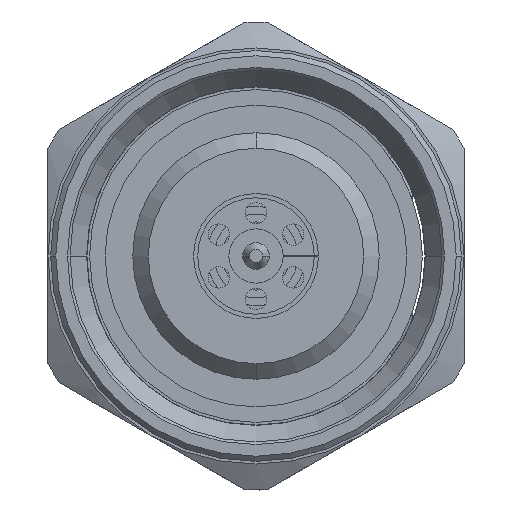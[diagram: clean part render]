
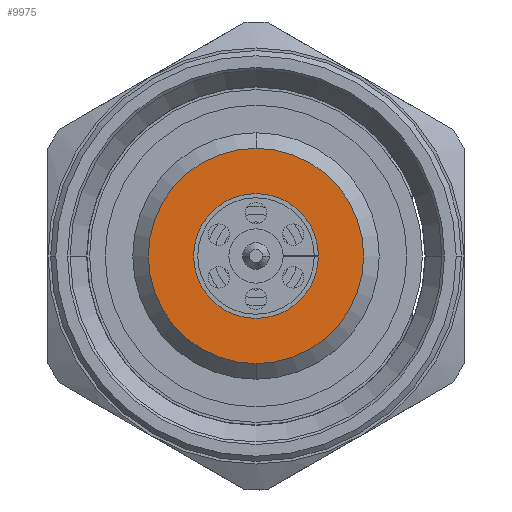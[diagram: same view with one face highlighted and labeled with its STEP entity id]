
A CAD part, left-side view. The second image highlights one B-rep face of the part: STEP entity #9975.
In plain terms, the highlighted planar face has unit normal (-1, 0, 0) as drawn and (0, 0, 1) by its records, which use the part's own axes.
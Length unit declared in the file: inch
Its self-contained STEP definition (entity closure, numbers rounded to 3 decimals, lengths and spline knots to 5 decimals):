
#209 = ORIENTED_EDGE ( 'NONE', *, *, #6118, .F. ) ;
#3384 = DIRECTION ( 'NONE',  ( 0., 0., -1. ) ) ;
#4742 = CARTESIAN_POINT ( 'NONE',  ( 0., -0.04724, 0.51693 ) ) ;
#4942 = AXIS2_PLACEMENT_3D ( 'NONE', #18673, #3384, #21222 ) ;
#4944 = DIRECTION ( 'NONE',  ( 0., 0., -1. ) ) ;
#6118 = EDGE_CURVE ( 'NONE', #16319, #15688, #7831, .T. ) ;
#7831 = CIRCLE ( 'NONE', #28643, 0.0815 ) ;
#8853 = FACE_BOUND ( 'NONE', #21521, .T. ) ;
#9170 = CARTESIAN_POINT ( 'NONE',  ( 0., 0., 0.51693 ) ) ;
#9862 = DIRECTION ( 'NONE',  ( 1., 0., 0. ) ) ;
#9975 = ADVANCED_FACE ( 'NONE', ( #8853, #28452 ), #32786, .T. ) ;
#11285 = VERTEX_POINT ( 'NONE', #24030 ) ;
#11438 = EDGE_CURVE ( 'NONE', #15688, #16319, #27171, .T. ) ;
#11737 = DIRECTION ( 'NONE',  ( 0., 1., 0. ) ) ;
#14535 = DIRECTION ( 'NONE',  ( 0., 0., -1. ) ) ;
#14701 = CIRCLE ( 'NONE', #4942, 0.04724 ) ;
#14778 = EDGE_CURVE ( 'NONE', #11285, #21691, #16567, .T. ) ;
#15688 = VERTEX_POINT ( 'NONE', #26978 ) ;
#16319 = VERTEX_POINT ( 'NONE', #29417 ) ;
#16567 = CIRCLE ( 'NONE', #16901, 0.04724 ) ;
#16901 = AXIS2_PLACEMENT_3D ( 'NONE', #20245, #4944, #22791 ) ;
#17386 = ORIENTED_EDGE ( 'NONE', *, *, #29985, .T. ) ;
#18673 = CARTESIAN_POINT ( 'NONE',  ( 0., 0., 0.51693 ) ) ;
#20101 = ORIENTED_EDGE ( 'NONE', *, *, #11438, .F. ) ;
#20245 = CARTESIAN_POINT ( 'NONE',  ( 0., 0., 0.51693 ) ) ;
#21222 = DIRECTION ( 'NONE',  ( 1., 0., 0. ) ) ;
#21521 = EDGE_LOOP ( 'NONE', ( #29168, #17386 ) ) ;
#21691 = VERTEX_POINT ( 'NONE', #30009 ) ;
#22791 = DIRECTION ( 'NONE',  ( 1., 0., 0. ) ) ;
#24030 = CARTESIAN_POINT ( 'NONE',  ( 0.04724, 0., 0.51693 ) ) ;
#25164 = DIRECTION ( 'NONE',  ( 0., 0., 1. ) ) ;
#26978 = CARTESIAN_POINT ( 'NONE',  ( 0., -0.0815, 0.51693 ) ) ;
#27052 = DIRECTION ( 'NONE',  ( 0., 0., -1. ) ) ;
#27171 = CIRCLE ( 'NONE', #31983, 0.0815 ) ;
#27554 = EDGE_LOOP ( 'NONE', ( #209, #20101 ) ) ;
#28452 = FACE_OUTER_BOUND ( 'NONE', #27554, .T. ) ;
#28643 = AXIS2_PLACEMENT_3D ( 'NONE', #9170, #27052, #11737 ) ;
#29168 = ORIENTED_EDGE ( 'NONE', *, *, #14778, .T. ) ;
#29417 = CARTESIAN_POINT ( 'NONE',  ( 0., 0.0815, 0.51693 ) ) ;
#29843 = CARTESIAN_POINT ( 'NONE',  ( 0., 0., 0.51693 ) ) ;
#29985 = EDGE_CURVE ( 'NONE', #21691, #11285, #14701, .T. ) ;
#30009 = CARTESIAN_POINT ( 'NONE',  ( -0.04724, 0., 0.51693 ) ) ;
#31983 = AXIS2_PLACEMENT_3D ( 'NONE', #29843, #14535, #32429 ) ;
#32429 = DIRECTION ( 'NONE',  ( 0., 1., 0. ) ) ;
#32786 = PLANE ( 'NONE',  #32995 ) ;
#32995 = AXIS2_PLACEMENT_3D ( 'NONE', #4742, #25164, #9862 ) ;
